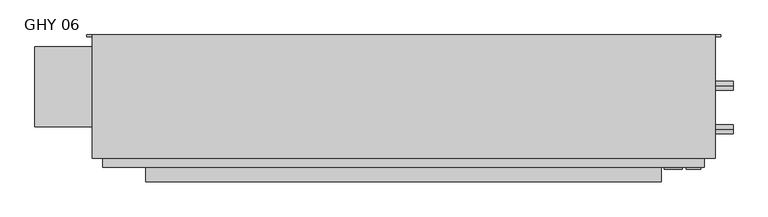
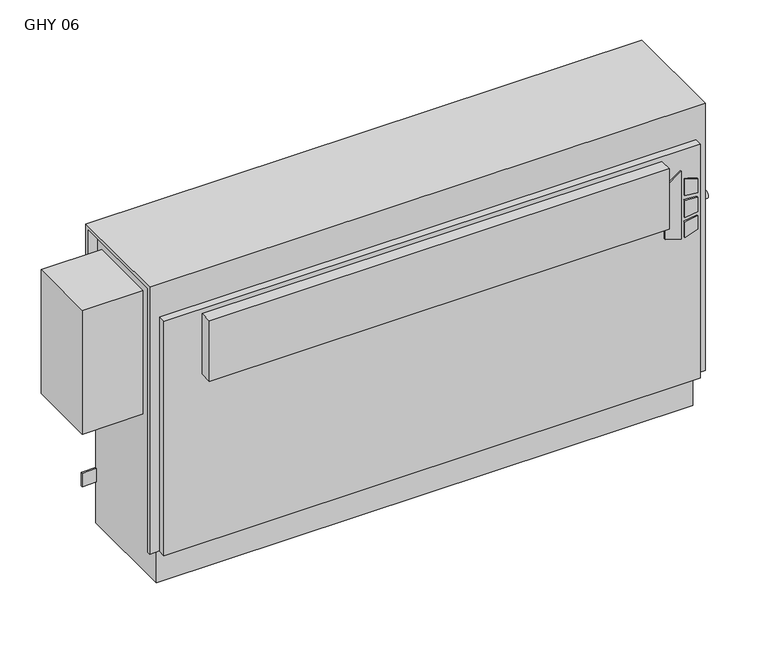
"""IFC4 building model written with IfcOpenShell, lengths in millimetres: proxy geometry, Vertical_Fan_Coil_Unit_-_GHY_-_IEC_-_2-Pipe_FS-FR_RH_2022 : GHY 06."""

from ifc_helpers import new_model, si_unit, point, frame, frame_2d, origin, place, context, project, spatial, polyline, circle_curve, trimmed, segment, composite_curve, outline, extrude, source, transform, mapped, element, save
from ifc_brep_helpers import plane_surface, revolved_surface, advanced_brep


def ghy_06_2601881b(model_context):
    return source(origin(), model_context, "Body", "SolidModel", [
        extrude(outline(polyline([(391.6086829, 614.4368862), (381.6606126, 646.6102728), (523.831537, 646.6102728), (500.8095309, 614.4368862), (391.6086829, 614.4368862)])), frame((0.0, 6.35, 0.0), z_axis=(0.0, 1.0, 0.0), x_axis=(0.0, 0.0, 1.0)), (0.0, 0.0, 1.0), 3.175),
        extrude(outline(polyline([(470.6079683, 653.3686058), (467.4055757, 679.45), (496.6344168, 679.45), (504.6988318, 653.3686058), (470.6079683, 653.3686058)])), frame((0.0, 6.35, 0.0), z_axis=(0.0, 1.0, 0.0), x_axis=(0.0, 0.0, 1.0)), (0.0, 0.0, 1.0), 3.175),
        extrude(outline(polyline([(418.7444414, 679.45), (415.0789404, 653.3686058), (381.6606126, 653.3686058), (390.2948498, 679.45), (418.7444414, 679.45)])), frame((0.0, 6.35, 0.0), z_axis=(0.0, 1.0, 0.0), x_axis=(0.0, 0.0, 1.0)), (0.0, 0.0, 1.0), 3.175),
        extrude(outline(polyline([(458.0596028, 679.45), (460.3414292, 653.3686058), (424.4038806, 653.3686058), (427.1451456, 679.45), (458.0596028, 679.45)])), frame((0.0, 6.35, 0.0), z_axis=(0.0, 1.0, 0.0), x_axis=(0.0, 0.0, 1.0)), (0.0, 0.0, 1.0), 3.175),
        extrude(outline(polyline([(609.6, -15.875), (-304.8, -15.875), (-304.8, 9.525), (609.6, 9.525), (609.6, -15.875)])), frame((0.0, 0.0, 428.625), z_axis=(0.0, 0.0, 1.0), x_axis=(1.0, 0.0, 0.0)), (0.0, 0.0, 1.0), 127.0),
        extrude(outline(composite_curve([segment(trimmed(circle_curve(frame_2d((77.597, 401.574)), 7.9375), [point((77.597, 393.6365))], [point((77.597, 409.5115))], False, "CARTESIAN"), True, "CONTINUOUS"), segment(trimmed(circle_curve(frame_2d((77.597, 401.574)), 7.9375), [point((77.597, 409.5115))], [point((77.597, 393.6365))], False, "CARTESIAN"), True, "CONTINUOUS")], self_intersect=False)), frame((685.8, 0.0, 0.0), z_axis=(1.0, 0.0, 0.0), x_axis=(0.0, 1.0, 0.0)), (0.0, 0.0, 1.0), 50.8),
        extrude(outline(composite_curve([segment(trimmed(circle_curve(frame_2d((154.559, 540.512)), 7.9375), [point((154.559, 532.5745))], [point((154.559, 548.4495))], False, "CARTESIAN"), True, "CONTINUOUS"), segment(trimmed(circle_curve(frame_2d((154.559, 540.512)), 7.9375), [point((154.559, 548.4495))], [point((154.559, 532.5745))], False, "CARTESIAN"), True, "CONTINUOUS")], self_intersect=False)), frame((685.8, 0.0, 0.0), z_axis=(1.0, 0.0, 0.0), x_axis=(0.0, 1.0, 0.0)), (0.0, 0.0, 1.0), 50.8),
        extrude(outline(polyline([(-501.65, 223.266), (-381.0, 223.266), (-381.0, 81.534), (-501.65, 81.534), (-501.65, 223.266)])), frame((0.0, 0.0, 327.025), z_axis=(0.0, 0.0, 1.0), x_axis=(1.0, 0.0, 0.0)), (0.0, 0.0, 1.0), 260.35),
        advanced_brep(
        [(704.85, 244.475, 635.0), (-400.05, 244.475, 635.0), (-400.05, 25.4, 635.0), (704.85, 25.4, 635.0), (-381.0, 244.475, 0.0), (685.8, 244.475, 0.0), (685.8, 34.925, 0.0), (-381.0, 34.925, 0.0), (704.85, 244.475, 558.8), (685.8, 244.475, 558.8), (685.8, 244.475, 414.3375), (714.375, 244.475, 414.3375), (714.375, 244.475, 385.7625), (685.8, 244.475, 385.7625), (685.8, 244.475, 287.3375), (714.375, 244.475, 287.3375), (714.375, 244.475, 258.7625), (685.8, 244.475, 258.7625), (685.8, 244.475, 141.2875), (714.375, 244.475, 141.2875), (714.375, 244.475, 112.7125), (685.8, 244.475, 112.7125), (-381.0, 244.475, 87.3125), (-409.575, 244.475, 87.3125), (-409.575, 244.475, 115.8875), (-381.0, 244.475, 115.8875), (-381.0, 244.475, 258.7625), (-409.575, 244.475, 258.7625), (-409.575, 244.475, 287.3375), (-381.0, 244.475, 287.3375), (-381.0, 244.475, 385.7625), (-409.575, 244.475, 385.7625), (-409.575, 244.475, 414.3375), (-381.0, 244.475, 414.3375), (-381.0, 244.475, 558.8), (-400.05, 244.475, 558.8), (704.0626, 244.475, 127.0), (692.9374, 244.475, 127.0), (704.0626, 244.475, 273.05), (692.9374, 244.475, 273.05), (-388.1374, 244.475, 273.05), (-399.2626, 244.475, 273.05), (704.0626, 244.475, 400.05), (692.9374, 244.475, 400.05), (-388.1374, 244.475, 400.05), (-399.2626, 244.475, 400.05), (-400.05, 238.125, 558.8), (-400.05, 238.125, 628.65), (-400.05, 31.75, 628.65), (-400.05, 31.75, 73.025), (-400.05, 25.4, 73.025), (685.8, 9.525, 565.15), (-381.0, 9.525, 565.15), (-381.0, 9.525, 73.025), (685.8, 9.525, 73.025), (704.85, 25.4, 73.025), (704.85, 31.75, 73.025), (704.85, 31.75, 628.65), (704.85, 238.125, 628.65), (704.85, 238.125, 558.8), (-381.0, 25.4, 73.025), (-381.0, 25.4, 565.15), (685.8, 25.4, 565.15), (685.8, 25.4, 73.025), (-381.0, 31.75, 73.025), (-381.0, 34.925, 73.025), (685.8, 34.925, 73.025), (685.8, 31.75, 73.025), (685.8, 241.3, 112.7125), (685.8, 241.3, 141.2875), (685.8, 241.3, 258.7625), (685.8, 241.3, 287.3375), (685.8, 241.3, 385.7625), (685.8, 241.3, 414.3375), (685.8, 238.125, 558.8), (685.8, 238.125, 628.65), (685.8, 31.75, 628.65), (-381.0, 31.75, 628.65), (-381.0, 238.125, 628.65), (-381.0, 238.125, 558.8), (-381.0, 241.3, 414.3375), (-381.0, 241.3, 385.7625), (-381.0, 241.3, 287.3375), (-381.0, 241.3, 258.7625), (-381.0, 241.3, 115.8875), (-381.0, 241.3, 87.3125), (714.375, 241.3, 112.7125), (714.375, 241.3, 141.2875), (692.9374, 241.3, 127.0), (704.0626, 241.3, 127.0), (714.375, 241.3, 258.7625), (714.375, 241.3, 287.3375), (692.9374, 241.3, 273.05), (704.0626, 241.3, 273.05), (714.375, 241.3, 385.7625), (714.375, 241.3, 414.3375), (692.9374, 241.3, 400.05), (704.0626, 241.3, 400.05), (-409.575, 241.3, 115.8875), (-409.575, 241.3, 87.3125), (-409.575, 241.3, 287.3375), (-409.575, 241.3, 258.7625), (-399.2626, 241.3, 273.05), (-388.1374, 241.3, 273.05), (-409.575, 241.3, 414.3375), (-409.575, 241.3, 385.7625), (-399.2626, 241.3, 400.05), (-388.1374, 241.3, 400.05)],
        [
            (0, 1),
            (1, 2),
            (2, 3),
            (3, 0),
            (4, 5),
            (5, 6),
            (6, 7),
            (7, 4),
            (0, 8),
            (8, 9),
            (9, 10),
            (10, 11),
            (11, 12),
            (12, 13),
            (13, 14),
            (14, 15),
            (15, 16),
            (16, 17),
            (17, 18),
            (18, 19),
            (19, 20),
            (20, 21),
            (21, 5),
            (4, 22),
            (22, 23),
            (23, 24),
            (24, 25),
            (25, 26),
            (26, 27),
            (27, 28),
            (28, 29),
            (29, 30),
            (30, 31),
            (31, 32),
            (32, 33),
            (33, 34),
            (34, 35),
            (35, 1),
            (36, 37, circle_curve(frame((698.5, 244.475, 127.0), z_axis=(0.0, -1.0, 0.0), x_axis=(-1.0, 0.0, 0.0)), 5.5626)),
            (37, 36, circle_curve(frame((698.5, 244.475, 127.0), z_axis=(0.0, -1.0, 0.0), x_axis=(-1.0, 0.0, 0.0)), 5.5626)),
            (38, 39, circle_curve(frame((698.5, 244.475, 273.05), z_axis=(0.0, -1.0, 0.0), x_axis=(-1.0, 0.0, 0.0)), 5.5626)),
            (39, 38, circle_curve(frame((698.5, 244.475, 273.05), z_axis=(0.0, -1.0, 0.0), x_axis=(-1.0, 0.0, 0.0)), 5.5626)),
            (40, 41, circle_curve(frame((-393.7, 244.475, 273.05), z_axis=(0.0, -1.0, 0.0), x_axis=(-1.0, 0.0, 0.0)), 5.5626)),
            (41, 40, circle_curve(frame((-393.7, 244.475, 273.05), z_axis=(0.0, -1.0, 0.0), x_axis=(-1.0, 0.0, 0.0)), 5.5626)),
            (42, 43, circle_curve(frame((698.5, 244.475, 400.05), z_axis=(0.0, -1.0, 0.0), x_axis=(-1.0, 0.0, 0.0)), 5.5626)),
            (43, 42, circle_curve(frame((698.5, 244.475, 400.05), z_axis=(0.0, -1.0, 0.0), x_axis=(-1.0, 0.0, 0.0)), 5.5626)),
            (44, 45, circle_curve(frame((-393.7, 244.475, 400.05), z_axis=(0.0, -1.0, 0.0), x_axis=(-1.0, 0.0, 0.0)), 5.5626)),
            (45, 44, circle_curve(frame((-393.7, 244.475, 400.05), z_axis=(0.0, -1.0, 0.0), x_axis=(-1.0, 0.0, 0.0)), 5.5626)),
            (35, 46),
            (46, 47),
            (47, 48),
            (48, 49),
            (49, 50),
            (50, 2),
            (51, 52),
            (52, 53),
            (53, 54),
            (54, 51),
            (3, 55),
            (55, 56),
            (56, 57),
            (57, 58),
            (58, 59),
            (59, 8),
            (50, 60),
            (60, 61),
            (61, 62),
            (62, 63),
            (63, 55),
            (51, 62),
            (61, 52),
            (53, 60),
            (49, 64),
            (64, 65),
            (65, 66),
            (66, 67),
            (67, 56),
            (63, 54),
            (6, 66),
            (65, 7),
            (21, 68),
            (68, 69),
            (69, 18),
            (17, 70),
            (70, 71),
            (71, 14),
            (13, 72),
            (72, 73),
            (73, 10),
            (9, 74),
            (74, 75),
            (75, 76),
            (76, 67),
            (64, 77),
            (77, 78),
            (78, 79),
            (79, 34),
            (33, 80),
            (80, 81),
            (81, 30),
            (29, 82),
            (82, 83),
            (83, 26),
            (25, 84),
            (84, 85),
            (85, 22),
            (74, 59),
            (58, 75),
            (76, 57),
            (48, 77),
            (79, 46),
            (78, 47),
            (68, 86),
            (86, 87),
            (87, 69),
            (88, 89, circle_curve(frame((698.5, 241.3, 127.0), z_axis=(0.0, 1.0, 0.0), x_axis=(-1.0, 0.0, 0.0)), 5.5626)),
            (89, 88, circle_curve(frame((698.5, 241.3, 127.0), z_axis=(0.0, 1.0, 0.0), x_axis=(-1.0, 0.0, 0.0)), 5.5626)),
            (90, 91),
            (91, 71),
            (70, 90),
            (92, 93, circle_curve(frame((698.5, 241.3, 273.05), z_axis=(0.0, 1.0, 0.0), x_axis=(-1.0, 0.0, 0.0)), 5.5626)),
            (93, 92, circle_curve(frame((698.5, 241.3, 273.05), z_axis=(0.0, 1.0, 0.0), x_axis=(-1.0, 0.0, 0.0)), 5.5626)),
            (94, 95),
            (95, 73),
            (72, 94),
            (96, 97, circle_curve(frame((698.5, 241.3, 400.05), z_axis=(0.0, 1.0, 0.0), x_axis=(-1.0, 0.0, 0.0)), 5.5626)),
            (97, 96, circle_curve(frame((698.5, 241.3, 400.05), z_axis=(0.0, 1.0, 0.0), x_axis=(-1.0, 0.0, 0.0)), 5.5626)),
            (98, 99),
            (99, 85),
            (84, 98),
            (82, 100),
            (100, 101),
            (101, 83),
            (102, 103, circle_curve(frame((-393.7, 241.3, 273.05), z_axis=(0.0, 1.0, 0.0), x_axis=(-1.0, 0.0, 0.0)), 5.5626)),
            (103, 102, circle_curve(frame((-393.7, 241.3, 273.05), z_axis=(0.0, 1.0, 0.0), x_axis=(-1.0, 0.0, 0.0)), 5.5626)),
            (104, 105),
            (105, 81),
            (80, 104),
            (106, 107, circle_curve(frame((-393.7, 241.3, 400.05), z_axis=(0.0, 1.0, 0.0), x_axis=(-1.0, 0.0, 0.0)), 5.5626)),
            (107, 106, circle_curve(frame((-393.7, 241.3, 400.05), z_axis=(0.0, 1.0, 0.0), x_axis=(-1.0, 0.0, 0.0)), 5.5626)),
            (87, 19),
            (86, 20),
            (16, 90),
            (91, 15),
            (12, 94),
            (95, 11),
            (24, 98),
            (99, 23),
            (101, 27),
            (100, 28),
            (32, 104),
            (105, 31),
            (88, 37),
            (36, 89),
            (92, 39),
            (38, 93),
            (102, 41),
            (40, 103),
            (96, 43),
            (42, 97),
            (106, 45),
            (44, 107),
        ],
        [
            plane_surface(frame((-400.05, 244.475, 635.0), z_axis=(0.0, 0.0, 1.0), x_axis=(-1.0, 0.0, 0.0))),
            plane_surface(frame((-400.05, 244.475, 0.0), z_axis=(0.0, 0.0, -1.0), x_axis=(1.0, 0.0, 0.0))),
            plane_surface(frame((704.85, 244.475, 635.0), z_axis=(0.0, 1.0, 0.0), x_axis=(0.0, 0.0, -1.0))),
            plane_surface(frame((-400.05, 244.475, 635.0), z_axis=(-1.0, 0.0, 0.0), x_axis=(0.0, 0.0, -1.0))),
            plane_surface(frame((-400.05, 9.525, 635.0), z_axis=(0.0, -1.0, 0.0), x_axis=(0.0, 0.0, -1.0))),
            plane_surface(frame((704.85, 9.525, 635.0), z_axis=(1.0, 0.0, 0.0), x_axis=(0.0, 0.0, -1.0))),
            plane_surface(frame((-654.05, 25.4, 635.0), z_axis=(0.0, -1.0, 0.0), x_axis=(1.0, 0.0, 0.0))),
            plane_surface(frame((-654.05, 25.4, 565.15), z_axis=(0.0, 0.0, 1.0), x_axis=(1.0, 0.0, 0.0))),
            plane_surface(frame((-400.05, 9.525, 73.025), z_axis=(0.0, 0.0, -1.0), x_axis=(1.0, 0.0, 0.0))),
            plane_surface(frame((-400.05, 34.925, 73.025), z_axis=(0.0, -1.0, 0.0), x_axis=(1.0, 0.0, 0.0))),
            plane_surface(frame((685.8, 25.4, 73.025), z_axis=(1.0, 0.0, 0.0), x_axis=(0.0, -1.0, 0.0))),
            plane_surface(frame((-381.0, 25.4, 565.15), z_axis=(-1.0, 0.0, 0.0), x_axis=(0.0, -1.0, 0.0))),
            plane_surface(frame((685.8, 244.475, 0.0), z_axis=(1.0, 0.0, 0.0), x_axis=(0.0, -1.0, 0.0))),
            plane_surface(frame((-381.0, 244.475, 73.025), z_axis=(-1.0, 0.0, 0.0), x_axis=(0.0, -1.0, 0.0))),
            plane_surface(frame((685.8, 238.125, 628.65), z_axis=(0.0, -1.0, 0.0), x_axis=(1.0, 0.0, 0.0))),
            plane_surface(frame((685.8, 238.125, 558.8), z_axis=(0.0, 0.0, -1.0), x_axis=(1.0, 0.0, 0.0))),
            plane_surface(frame((685.8, 31.75, 73.025), z_axis=(0.0, 1.0, 0.0), x_axis=(1.0, 0.0, 0.0))),
            plane_surface(frame((685.8, 31.75, 628.65), z_axis=(0.0, 0.0, -1.0), x_axis=(1.0, 0.0, 0.0))),
            plane_surface(frame((-381.0, 31.75, 628.65), z_axis=(0.0, 1.0, 0.0), x_axis=(-1.0, 0.0, 0.0))),
            plane_surface(frame((-381.0, 244.475, 558.8), z_axis=(0.0, 0.0, -1.0), x_axis=(-1.0, 0.0, 0.0))),
            plane_surface(frame((-381.0, 238.125, 558.8), z_axis=(0.0, -1.0, 0.0), x_axis=(-1.0, 0.0, 0.0))),
            plane_surface(frame((-381.0, 238.125, 628.65), z_axis=(0.0, 0.0, -1.0), x_axis=(-1.0, 0.0, 0.0))),
            plane_surface(frame((714.375, 241.3, 141.2875), z_axis=(0.0, -1.0, 0.0), x_axis=(-1.0, 0.0, 0.0))),
            plane_surface(frame((685.8, 244.475, 141.2875), z_axis=(0.0, 0.0, 1.0), x_axis=(0.0, -1.0, 0.0))),
            plane_surface(frame((714.375, 244.475, 141.2875), z_axis=(1.0, 0.0, 0.0), x_axis=(0.0, -1.0, 0.0))),
            plane_surface(frame((714.375, 244.475, 112.7125), z_axis=(0.0, 0.0, -1.0), x_axis=(0.0, -1.0, 0.0))),
            plane_surface(frame((714.375, 244.475, 258.7625), z_axis=(0.0, 0.0, -1.0), x_axis=(0.0, -1.0, 0.0))),
            plane_surface(frame((685.8, 244.475, 287.3375), z_axis=(0.0, 0.0, 1.0), x_axis=(0.0, -1.0, 0.0))),
            plane_surface(frame((714.375, 244.475, 287.3375), z_axis=(1.0, 0.0, 0.0), x_axis=(0.0, -1.0, 0.0))),
            plane_surface(frame((714.375, 244.475, 385.7625), z_axis=(0.0, 0.0, -1.0), x_axis=(0.0, -1.0, 0.0))),
            plane_surface(frame((685.8, 244.475, 414.3375), z_axis=(0.0, 0.0, 1.0), x_axis=(0.0, -1.0, 0.0))),
            plane_surface(frame((714.375, 244.475, 414.3375), z_axis=(1.0, 0.0, 0.0), x_axis=(0.0, -1.0, 0.0))),
            plane_surface(frame((-409.575, 244.475, 115.8875), z_axis=(0.0, 0.0, 1.0), x_axis=(0.0, -1.0, 0.0))),
            plane_surface(frame((-381.0, 244.475, 87.3125), z_axis=(0.0, 0.0, -1.0), x_axis=(0.0, -1.0, 0.0))),
            plane_surface(frame((-409.575, 244.475, 87.3125), z_axis=(-1.0, 0.0, 0.0), x_axis=(0.0, -1.0, 0.0))),
            plane_surface(frame((-381.0, 244.475, 258.7625), z_axis=(0.0, 0.0, -1.0), x_axis=(0.0, -1.0, 0.0))),
            plane_surface(frame((-409.575, 244.475, 258.7625), z_axis=(-1.0, 0.0, 0.0), x_axis=(0.0, -1.0, 0.0))),
            plane_surface(frame((-409.575, 244.475, 287.3375), z_axis=(0.0, 0.0, 1.0), x_axis=(0.0, -1.0, 0.0))),
            plane_surface(frame((-409.575, 244.475, 414.3375), z_axis=(0.0, 0.0, 1.0), x_axis=(0.0, -1.0, 0.0))),
            plane_surface(frame((-381.0, 244.475, 385.7625), z_axis=(0.0, 0.0, -1.0), x_axis=(0.0, -1.0, 0.0))),
            plane_surface(frame((-409.575, 244.475, 385.7625), z_axis=(-1.0, 0.0, 0.0), x_axis=(0.0, -1.0, 0.0))),
            revolved_surface(polyline([(692.9374, 241.3, 127.0), (692.9374, 244.475, 127.0)]), (698.5, 244.475, 127.0), (0.0, -1.0, 0.0)),
            revolved_surface(polyline([(692.9374, 241.3, 273.05), (692.9374, 244.475, 273.05)]), (698.5, 244.475, 273.05), (0.0, -1.0, 0.0)),
            revolved_surface(polyline([(-399.26259999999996, 241.3, 273.05), (-399.26259999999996, 244.475, 273.05)]), (-393.7, 244.475, 273.05), (0.0, -1.0, 0.0)),
            revolved_surface(polyline([(692.9374, 241.3, 400.05), (692.9374, 244.475, 400.05)]), (698.5, 244.475, 400.05), (0.0, -1.0, 0.0)),
            revolved_surface(polyline([(-399.26259999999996, 241.3, 400.05), (-399.26259999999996, 244.475, 400.05)]), (-393.7, 244.475, 400.05), (0.0, -1.0, 0.0)),
        ],
        [
            (0, [[1, 2, 3, 4]]),
            (1, [[5, 6, 7, 8]]),
            (2, [[-1, 9, 10, 11, 12, 13, 14, 15, 16, 17, 18, 19, 20, 21, 22, 23, -5, 24, 25, 26, 27, 28, 29, 30, 31, 32, 33, 34, 35, 36, 37, 38], [39, 40], [41, 42], [43, 44], [45, 46], [47, 48]]),
            (3, [[-2, -38, 49, 50, 51, 52, 53, 54]]),
            (4, [[55, 56, 57, 58]]),
            (5, [[-4, 59, 60, 61, 62, 63, 64, -9]]),
            (6, [[-3, -54, 65, 66, 67, 68, 69, -59]]),
            (7, [[-55, 70, -67, 71]]),
            (8, [[-57, 72, -65, -53, 73, 74, 75, 76, 77, -60, -69, 78]]),
            (9, [[-7, 79, -75, 80]]),
            (10, [[-68, -70, -58, -78]]),
            (11, [[-66, -72, -56, -71]]),
            (12, [[-6, -23, 81, 82, 83, -19, 84, 85, 86, -15, 87, 88, 89, -11, 90, 91, 92, 93, -76, -79]]),
            (13, [[-8, -80, -74, 94, 95, 96, 97, -36, 98, 99, 100, -32, 101, 102, 103, -28, 104, 105, 106, -24]]),
            (14, [[-91, 107, -63, 108]]),
            (15, [[-90, -10, -64, -107]]),
            (16, [[-93, 109, -61, -77]]),
            (17, [[-92, -108, -62, -109]]),
            (18, [[-94, -73, -52, 110]]),
            (19, [[-97, 111, -49, -37]]),
            (20, [[-96, 112, -50, -111]]),
            (21, [[-95, -110, -51, -112]]),
            (22, [[113, 114, 115, -82], [116, 117]]),
            (22, [[118, 119, -85, 120], [121, 122]]),
            (22, [[123, 124, -88, 125], [126, 127]]),
            (22, [[128, 129, -105, 130]]),
            (22, [[131, 132, 133, -102], [134, 135]]),
            (22, [[136, 137, -99, 138], [139, 140]]),
            (23, [[-115, 141, -20, -83]]),
            (24, [[-114, 142, -21, -141]]),
            (25, [[-113, -81, -22, -142]]),
            (26, [[-120, -84, -18, 143]]),
            (27, [[-119, 144, -16, -86]]),
            (28, [[-118, -143, -17, -144]]),
            (29, [[-125, -87, -14, 145]]),
            (30, [[-124, 146, -12, -89]]),
            (31, [[-123, -145, -13, -146]]),
            (32, [[-130, -104, -27, 147]]),
            (33, [[-129, 148, -25, -106]]),
            (34, [[-128, -147, -26, -148]]),
            (35, [[-133, 149, -29, -103]]),
            (36, [[-132, 150, -30, -149]]),
            (37, [[-131, -101, -31, -150]]),
            (38, [[-138, -98, -35, 151]]),
            (39, [[-137, 152, -33, -100]]),
            (40, [[-136, -151, -34, -152]]),
            (41, [[153, -39, 154, -116]]),
            (41, [[-153, -117, -154, -40]]),
            (42, [[155, -41, 156, -121]]),
            (42, [[-155, -122, -156, -42]]),
            (43, [[157, -43, 158, -134]]),
            (43, [[-157, -135, -158, -44]]),
            (44, [[159, -45, 160, -126]]),
            (44, [[-159, -127, -160, -46]]),
            (45, [[161, -47, 162, -139]]),
            (45, [[-161, -140, -162, -48]]),
        ],
    ),
    ])


if __name__ == "__main__":
    model = new_model("IFC4")
    model_context = context("Model", 3, world=origin())
    ifc_project = project(units=[si_unit("LENGTHUNIT", "METRE", prefix="MILLI")], contexts=[model_context])
    site = spatial("IfcSite", under=ifc_project)
    building = spatial("IfcBuilding", under=site)
    placement = place(None, origin())
    ghy_06_shape = ghy_06_2601881b(model_context)
    element("IfcBuildingElementProxy", 1, Name="Vertical_Fan_Coil_Unit_-_GHY_-_IEC_-_2-Pipe_FS-FR_RH_2022 : GHY 06", ObjectType="Vertical_Fan_Coil_Unit_-_GHY_-_IEC_-_2-Pipe_FS-FR_RH_2022 : GHY 06", at=placement, inside=building, context=model_context, shape_type="MappedRepresentation", body=[
        mapped(ghy_06_shape, transform((0.0, 0.0, 0.0), x_axis=(1.0, 0.0, 0.0), y_axis=(0.0, 1.0, 0.0), z_axis=(0.0, 0.0, 1.0))),
    ])
    save(model, "model.ifc")
